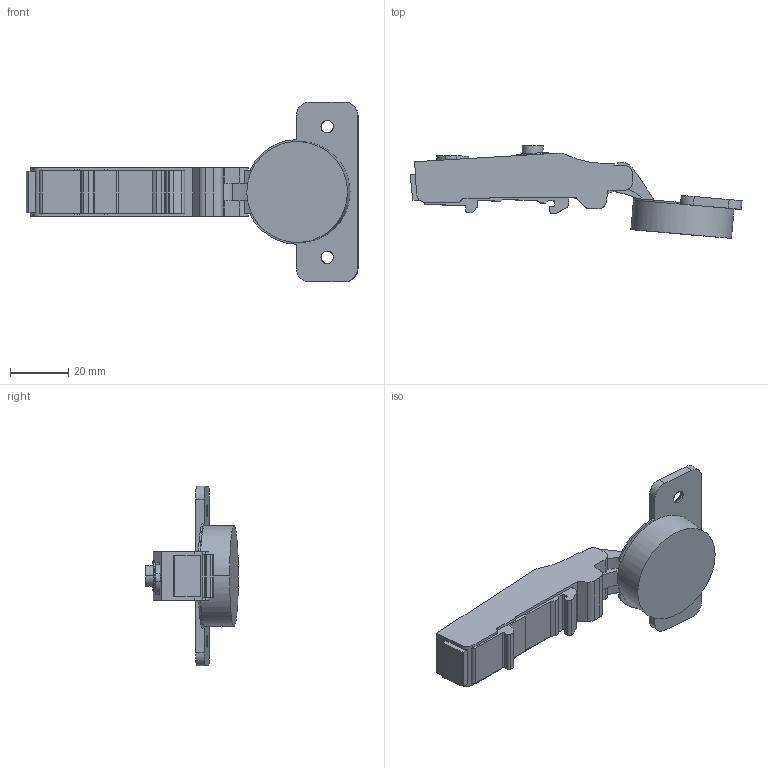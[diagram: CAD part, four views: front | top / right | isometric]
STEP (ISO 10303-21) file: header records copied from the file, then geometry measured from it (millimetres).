
FILE_DESCRIPTION (( 'STEP AP203' ), '1' );
FILE_NAME ('C85A6A5F(DTC3D open).STEP', '2021-04-09T05:35:12', ( '' ), ( '' ), 'SwSTEP 2.0', 'SolidWorks 2018', '' );
FILE_SCHEMA (( 'CONFIG_CONTROL_DESIGN' ));
Length unit declared in the file: millimetre
Products named in the file (1): C85A6A5F(DTC3D open)
Bounding box: 114.42 x 31.96 x 62 mm (x, y, z)
Surface area: 11017.5 mm2 (no closed solid volume)
Topology: 0 solids, 2 shells, 185 faces, 526 edges, 349 vertices
Faces by surface type: plane 81, cylinder 79, torus 12, bspline 7, cone 4, sphere 2
Entity records: 7952 total; most frequent: CARTESIAN_POINT 4099, ORIENTED_EDGE 1048, EDGE_CURVE 526, B_SPLINE_CURVE_WITH_KNOTS 511, DIRECTION 373, VERTEX_POINT 349, EDGE_LOOP 195, ADVANCED_FACE 185
